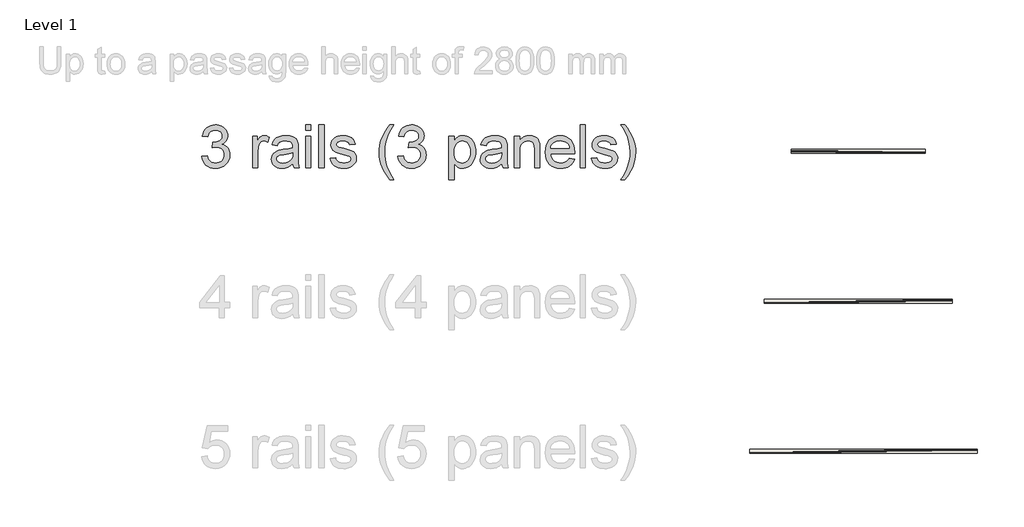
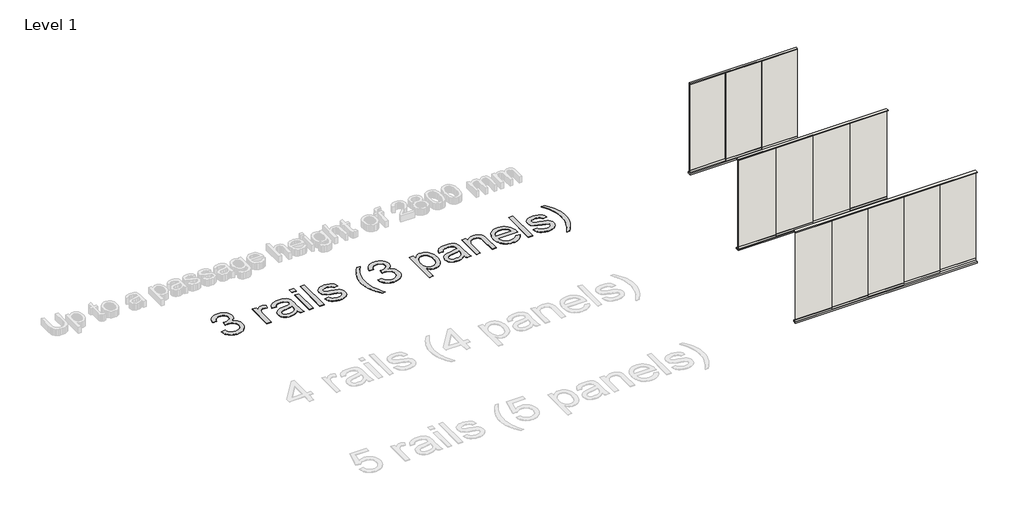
# One storey, part 5 of 47: 3 walls, 1 proxy.
"""IFC4 building model written with IfcOpenShell, lengths in millimetres."""

from ifc_helpers import new_model, si_unit, origin, origin_with_axes, place, context, project, spatial, polyline, outline, extrude, transform, mapped, element, save
from components import wall_6bacda9c, wall_d576aa66, wall_dc490932

model = new_model("IFC4")

# Units and contexts
model_context = context("Model", 3, world=origin())
ifc_project = project(units=[si_unit("LENGTHUNIT", "METRE", prefix="MILLI")], contexts=[model_context])

# Site, building, storey
site = spatial("IfcSite", under=ifc_project)
building = spatial("IfcBuilding", under=site)
storey = spatial("IfcBuildingStorey", under=building, Name="Level 1", Elevation=0.0)

# Proxy
placement = place(None, origin())
element("IfcBuildingElementProxy", 1, Name="800mm Arial", ObjectType="800mm Arial", at=placement, inside=storey, context=model_context, shape_type="SweptSolid", body=[
    extrude(outline(polyline([(176394.1506484, -49396.1423775), (176494.0742357, -49383.6519291), (176503.9604744, -49417.598138), (176516.444824, -49446.4457069), (176531.5272844, -49470.1946356), (176549.2078556, -49488.8449243), (176569.889062, -49502.9332719), (176593.9734276, -49512.9963773), (176621.4609525, -49519.0342405), (176652.3516367, -49521.0468616), (176688.5544207, -49518.2779829), (176720.8539397, -49509.9713468), (176749.2501935, -49496.1269533), (176773.7431822, -49476.7448024), (176793.4668688, -49453.2764208), (176807.5552163, -49427.1733353), (176816.0082249, -49398.4355458), (176818.8258944, -49367.0630523), (176816.0326203, -49337.1847775), (176807.652798, -49310.0021952), (176793.6864274, -49285.5153054), (176774.1335087, -49263.724108), (176750.2748006, -49245.8361758), (176723.391062, -49233.0590814), (176693.482293, -49225.3928247), (176660.5484934, -49222.8374058), (176628.9808367, -49225.5696914), (176590.4848844, -49233.7665482), (176601.60919, -49133.8429609), (176617.612577, -49135.0139404), (176648.3385922, -49133.220878), (176677.4789059, -49127.8416907), (176705.0335182, -49118.8763786), (176731.002429, -49106.3249417), (176753.0314816, -49090.0532052), (176768.7665191, -49069.9269944), (176778.2075417, -49045.9463092), (176781.3545492, -49018.1111498), (176779.0735786, -48995.514904), (176772.2306669, -48974.9556747), (176760.8258141, -48956.4334619), (176744.8590202, -48939.9482656), (176725.2939038, -48926.4149135), (176703.0940833, -48916.7482335), (176678.259559, -48910.9482255), (176650.7903306, -48909.0148895), (176623.3942885, -48910.966522), (176598.3889963, -48916.8214197), (176575.7744539, -48926.5795825), (176555.5506615, -48940.2410105), (176538.2177248, -48957.8057036), (176524.2757496, -48979.2736618), (176513.7247361, -49004.6448851), (176506.5646841, -49033.9193736), (176406.6410968, -49021.4289252), (176418.4850669, -48973.7237067), (176436.0619577, -48931.702618), (176459.3717692, -48895.3656592), (176488.4145013, -48864.7128302), (176522.2753262, -48840.3784117), (176560.0394164, -48822.9966842), (176601.7067716, -48812.5676477), (176647.277392, -48809.0913022), (176679.326858, -48810.8050795), (176710.0955652, -48815.9464115), (176739.5835134, -48824.5152983), (176767.7907028, -48836.5117397), (176793.7352182, -48851.4783219), (176816.4351445, -48868.9576311), (176835.8904816, -48888.9496672), (176852.1012296, -48911.4544302), (176864.8661264, -48935.5753889), (176873.9839097, -48960.4160121), (176879.4545798, -48985.9762999), (176881.2781365, -49012.2562521), (176879.5460626, -49036.9687995), (176874.3498409, -49060.5591581), (176865.6894713, -49083.027328), (176853.564954, -49104.3733091), (176838.0494752, -49124.0969957), (176819.2162209, -49141.6982819), (176797.0651913, -49157.1771677), (176771.5963863, -49170.5336531), (176804.896117, -49180.9504919), (176834.14621, -49195.8072948), (176859.3466655, -49215.1040618), (176880.4974834, -49238.8407928), (176897.2327327, -49266.4319982), (176909.1864821, -49297.2921881), (176916.3587318, -49331.4213626), (176918.7494817, -49368.8195216), (176913.9679819, -49419.5131775), (176899.6234826, -49466.2059866), (176875.7159836, -49508.8979489), (176842.2454852, -49547.5890645), (176801.4685623, -49579.6934202), (176755.6417901, -49602.6251028), (176704.7651687, -49616.3841124), (176648.838698, -49620.9704489), (176598.2914146, -49617.0549861), (176552.2328861, -49605.3085976), (176510.6631125, -49585.7312834), (176473.5820938, -49558.3230436), (176442.4901475, -49524.693975), (176418.8875912, -49486.4541744), (176402.7744248, -49443.6036419), (176394.1506484, -49396.1423775)])), origin_with_axes(), (0.0, 0.0, 1.0), 5.0),
    extrude(outline(polyline([(177343.4247277, -49608.4800005), (177343.4247277, -49021.4289252), (177430.8578666, -49021.4289252), (177430.8578666, -49108.2765743), (177463.1573855, -49057.9244541), (177478.3557241, -49040.5061335), (177492.9197821, -49028.2596391), (177522.7797603, -49013.7687673), (177555.3720242, -49008.9384767), (177580.1577577, -49010.8657139), (177605.1386546, -49016.6474254), (177630.3147146, -49026.2836112), (177655.685938, -49039.7742713), (177622.3130211, -49129.354206), (177587.183635, -49113.9850995), (177552.0542488, -49108.862064), (177522.218666, -49113.7899363), (177495.5544861, -49128.5735529), (177474.0133416, -49152.0907253), (177459.5468653, -49183.2192647), (177447.3979525, -49239.0359561), (177443.348315, -49299.9268921), (177443.348315, -49608.4800005), (177343.4247277, -49608.4800005)])), origin_with_axes(), (0.0, 0.0, 1.0), 5.0),
    extrude(outline(polyline([(178092.8516324, -49533.53731), (178045.1098208, -49574.4728031), (178020.7083149, -49589.6345486), (177995.9530756, -49601.25896), (177944.259208, -49616.0425767), (177888.9060294, -49620.9704489), (177844.4149058, -49618.006407), (177805.4005511, -49609.1142811), (177771.8629652, -49594.2940713), (177743.8021483, -49573.5457776), (177721.6450198, -49548.186752), (177705.8184995, -49519.5343464), (177696.3225873, -49487.5885608), (177693.1572832, -49452.3493954), (177697.938783, -49410.9259942), (177712.2832823, -49373.3082765), (177734.4099165, -49341.1063392), (177762.5378209, -49315.9302791), (177795.5935974, -49296.9018616), (177832.5038483, -49283.142852), (177918.9611709, -49268.1152813), (178021.1291356, -49252.3070575), (178092.2661426, -49233.7665482), (178092.8516324, -49211.5179369), (178091.1317562, -49187.2932977), (178085.9721276, -49166.9231328), (178077.3727466, -49150.4074423), (178065.3336132, -49137.746226), (178044.524331, -49125.1094051), (178019.1775031, -49116.0831045), (177989.2931294, -49110.6673242), (177954.8712101, -49108.862064), (177895.3464169, -49113.6679592), (177872.3171526, -49119.6753282), (177853.7766433, -49128.0856448), (177838.5417115, -49139.557585), (177825.4291803, -49154.7498247), (177814.4390494, -49173.662364), (177805.5713189, -49196.2952029), (177705.6477316, -49183.8047545), (177722.992866, -49129.1590427), (177734.8673304, -49106.2273601), (177748.8763929, -49086.2231263), (177765.6238399, -49068.7438171), (177785.7134576, -49053.3869084), (177809.145246, -49040.1524001), (177835.9192053, -49029.0402922), (177897.3224448, -49013.9639306), (177967.751985, -49008.9384767), (178035.3028671, -49013.3784408), (178088.8507856, -49026.6983331), (178129.2251843, -49046.7269623), (178157.255507, -49071.2931372), (178175.8448072, -49101.665419), (178187.8961383, -49139.1123688), (178191.5554493, -49173.6562652), (178192.7752197, -49226.5455077), (178192.7752197, -49350.864502), (178194.0437808, -49459.1557139), (178197.8494643, -49524.4622186), (178205.3632497, -49567.3737396), (178217.7561165, -49608.4800005), (178117.8325292, -49608.4800005), (178101.8291422, -49573.7409409), (178092.8516324, -49533.53731)]), holes=[polyline([(178092.8516324, -49333.6901355), (178025.7154722, -49350.3278031), (177931.6467826, -49364.3307667), (177879.8065426, -49371.9909245), (177845.6773681, -49380.529317), (177823.3067798, -49391.6048318), (177806.7422985, -49406.8763566), (177796.4962275, -49425.1729119), (177793.0808705, -49445.3235181), (177794.9410203, -49460.8511947), (177800.5214697, -49475.0371239), (177809.8222186, -49487.8813057), (177822.8432671, -49499.3837402), (177839.4626382, -49508.8613558), (177859.5583547, -49515.6310813), (177910.1788244, -49521.0468616), (177963.8487199, -49515.0699869), (177988.3417086, -49507.5988935), (178011.2733912, -49497.1393627), (178049.7205527, -49470.7191369), (178076.4579188, -49439.2734572), (178088.3140867, -49406.8763566), (178092.2661426, -49361.9888076), (178092.8516324, -49333.6901355)])]), origin_with_axes(), (0.0, 0.0, 1.0), 5.0),
    extrude(outline(polyline([(178330.1701522, -49608.4800005), (178330.1701522, -49021.4289252), (178430.0937395, -49021.4289252), (178430.0937395, -49608.4800005), (178330.1701522, -49608.4800005)])), origin_with_axes(), (0.0, 0.0, 1.0), 5.0),
    extrude(outline(polyline([(178330.1701522, -48909.0148895), (178330.1701522, -48809.0913022), (178430.0937395, -48809.0913022), (178430.0937395, -48909.0148895), (178330.1701522, -48909.0148895)])), origin_with_axes(), (0.0, 0.0, 1.0), 5.0),
    extrude(outline(polyline([(178579.9791204, -49608.4800005), (178579.9791204, -48809.0913022), (178679.9027077, -48809.0913022), (178679.9027077, -49608.4800005), (178579.9791204, -49608.4800005)])), origin_with_axes(), (0.0, 0.0, 1.0), 5.0),
    extrude(outline(polyline([(178792.3167434, -49433.6137227), (178892.2403307, -49421.1232743), (178898.278194, -49443.9085845), (178907.9997637, -49463.8640275), (178921.4050399, -49480.9896032), (178938.4940225, -49495.2853118), (178959.3155024, -49506.5559898), (178983.9182704, -49514.6064742), (179012.3023265, -49519.4367648), (179044.4676707, -49521.0468616), (179076.5964218, -49519.5709395), (179104.2852088, -49515.1431731), (179127.5340318, -49507.7635625), (179146.3428906, -49497.4321076), (179160.8581578, -49485.112427), (179171.2262058, -49471.7681394), (179177.4470346, -49457.3992446), (179179.5206442, -49442.0057428), (179177.4348369, -49428.5150827), (179171.177415, -49416.5369378), (179160.7483785, -49406.0713082), (179146.1477273, -49397.1181938), (179108.7251729, -49384.4325821), (179043.2966912, -49368.6243584), (178952.1066596, -49342.2529233), (178892.8258205, -49319.7359626), (178854.7445901, -49295.1697877), (178839.6377343, -49279.9043617), (178827.1533847, -49262.6507101), (178810.3937401, -49224.2523394), (178804.8071918, -49182.0482852), (178809.2959467, -49143.3327742), (178822.7622114, -49107.5935029), (178843.9862156, -49076.2454048), (178871.7481888, -49050.7034136), (178899.3393942, -49034.6268404), (178935.2738288, -49021.1361803), (178976.819207, -49011.9879026), (179021.2432432, -49008.9384767), (179086.2813984, -49013.8419536), (179142.829952, -49028.552384), (179188.3029907, -49051.6304391), (179205.9164746, -49065.7675775), (179220.1146015, -49081.6367898), (179241.1922332, -49120.7914181), (179254.4633347, -49171.3143061), (179154.5397474, -49183.8047545), (179149.7765441, -49167.1121972), (179141.9273219, -49152.3590748), (179130.9920807, -49139.5453873), (179116.9708205, -49128.6711346), (179099.8025528, -49120.0046662), (179079.426289, -49113.8143317), (179029.0497735, -49108.862064), (178971.6717761, -49113.594773), (178950.1550271, -49119.5106592), (178933.4197778, -49127.7928999), (178911.9030288, -49148.2850418), (178906.5238416, -49159.7020923), (178904.7307791, -49171.8997959), (178907.7070188, -49187.2689023), (178916.6357378, -49200.9791211), (178931.9072626, -49213.2256154), (178953.9119198, -49223.0325691), (179039.9789158, -49244.305364), (179128.265894, -49270.4084496), (179186.644103, -49291.3397088), (179225.3840094, -49313.8322741), (179254.7560795, -49344.6192778), (179265.557146, -49363.1475895), (179273.2721935, -49383.7983015), (179277.901222, -49406.571414), (179279.4442315, -49431.4669269), (179277.6328725, -49456.4722192), (179272.1987956, -49480.7456492), (179263.1420007, -49504.287217), (179250.4624879, -49527.0969226), (179234.3676181, -49548.266037), (179215.0647523, -49566.8858315), (179192.5538904, -49582.9563059), (179166.8350325, -49596.4774602), (179138.6095466, -49607.1931428), (179108.5788005, -49614.8472017), (179076.7427943, -49619.4396371), (179043.1015279, -49620.9704489), (178989.3218531, -49618.0186047), (178942.3484968, -49609.1630719), (178902.1814591, -49594.4038506), (178868.8207399, -49573.7409409), (178841.5710703, -49547.2719242), (178819.737181, -49515.0943823), (178803.319072, -49477.2083151), (178792.3167434, -49433.6137227)])), origin_with_axes(), (0.0, 0.0, 1.0), 5.0),
    extrude(outline(polyline([(179903.9666521, -49833.3080719), (179863.6288465, -49781.1140985), (179826.5356301, -49724.6509289), (179792.6870028, -49663.918563), (179762.0829646, -49598.9170009), (179736.723939, -49531.1709556), (179718.6103493, -49462.2051398), (179707.7421954, -49392.0195537), (179704.1194775, -49320.6141973), (179706.8273677, -49257.8570126), (179714.9510382, -49196.4415754), (179728.4904891, -49136.3678855), (179747.4457204, -49077.635943), (179776.2566961, -49010.2802241), (179811.9471767, -48943.0708777), (179854.517162, -48876.0079037), (179903.9666521, -48809.0913022), (179978.9093425, -48809.0913022), (179920.1164115, -48904.0870172), (179885.4261427, -48967.3687031), (179853.5169503, -49042.5065569), (179829.2191248, -49120.7670227), (179810.3370798, -49220.7394008), (179804.0430648, -49321.199687), (179806.7753504, -49385.2559271), (179814.9722071, -49449.2999695), (179828.6336351, -49513.3318141), (179847.7596342, -49577.3514611), (179872.3502045, -49641.3589104), (179902.405346, -49705.3541619), (179937.9250587, -49769.3372158), (179978.9093425, -49833.3080719), (179903.9666521, -49833.3080719)])), origin_with_axes(), (0.0, 0.0, 1.0), 5.0),
    extrude(outline(polyline([(180053.852033, -49396.1423775), (180153.7756203, -49383.6519291), (180163.661859, -49417.598138), (180176.1462086, -49446.4457069), (180191.228669, -49470.1946356), (180208.9092402, -49488.8449243), (180229.5904466, -49502.9332719), (180253.6748122, -49512.9963773), (180281.1623371, -49519.0342405), (180312.0530213, -49521.0468616), (180348.2558053, -49518.2779829), (180380.5553243, -49509.9713468), (180408.9515781, -49496.1269533), (180433.4445668, -49476.7448024), (180453.1682534, -49453.2764208), (180467.2566009, -49427.1733353), (180475.7096095, -49398.4355458), (180478.527279, -49367.0630523), (180475.7340049, -49337.1847775), (180467.3541826, -49310.0021952), (180453.387812, -49285.5153054), (180433.8348933, -49263.724108), (180409.9761852, -49245.8361758), (180383.0924466, -49233.0590814), (180353.1836776, -49225.3928247), (180320.249878, -49222.8374058), (180288.6822213, -49225.5696914), (180250.186269, -49233.7665482), (180261.3105746, -49133.8429609), (180277.3139616, -49135.0139404), (180308.0399768, -49133.220878), (180337.1802905, -49127.8416907), (180364.7349028, -49118.8763786), (180390.7038136, -49106.3249417), (180412.7328662, -49090.0532052), (180428.4679037, -49069.9269944), (180437.9089262, -49045.9463092), (180441.0559338, -49018.1111498), (180438.7749632, -48995.514904), (180431.9320515, -48974.9556747), (180420.5271987, -48956.4334619), (180404.5604048, -48939.9482656), (180384.9952883, -48926.4149135), (180362.7954679, -48916.7482335), (180337.9609435, -48910.9482255), (180310.4917152, -48909.0148895), (180283.0956731, -48910.966522), (180258.0903809, -48916.8214197), (180235.4758385, -48926.5795825), (180215.2520461, -48940.2410105), (180197.9191094, -48957.8057036), (180183.9771342, -48979.2736618), (180173.4261207, -49004.6448851), (180166.2660687, -49033.9193736), (180066.3424814, -49021.4289252), (180078.1864515, -48973.7237067), (180095.7633423, -48931.702618), (180119.0731538, -48895.3656592), (180148.1158859, -48864.7128302), (180181.9767108, -48840.3784117), (180219.740801, -48822.9966842), (180261.4081562, -48812.5676477), (180306.9787766, -48809.0913022), (180339.0282426, -48810.8050795), (180369.7969498, -48815.9464115), (180399.284898, -48824.5152983), (180427.4920874, -48836.5117397), (180453.4366028, -48851.4783219), (180476.1365291, -48868.9576311), (180495.5918662, -48888.9496672), (180511.8026142, -48911.4544302), (180524.567511, -48935.5753889), (180533.6852943, -48960.4160121), (180539.1559644, -48985.9762999), (180540.9795211, -49012.2562521), (180539.2474472, -49036.9687995), (180534.0512254, -49060.5591581), (180525.3908559, -49083.027328), (180513.2663386, -49104.3733091), (180497.7508598, -49124.0969957), (180478.9176055, -49141.6982819), (180456.7665759, -49157.1771677), (180431.2977709, -49170.5336531), (180464.5975016, -49180.9504919), (180493.8475946, -49195.8072948), (180519.0480501, -49215.1040618), (180540.198868, -49238.8407928), (180556.9341173, -49266.4319982), (180568.8878667, -49297.2921881), (180576.0601164, -49331.4213626), (180578.4508663, -49368.8195216), (180573.6693665, -49419.5131775), (180559.3248672, -49466.2059866), (180535.4173682, -49508.8979489), (180501.9468698, -49547.5890645), (180461.1699469, -49579.6934202), (180415.3431747, -49602.6251028), (180364.4665533, -49616.3841124), (180308.5400826, -49620.9704489), (180257.9927992, -49617.0549861), (180211.9342707, -49605.3085976), (180170.3644971, -49585.7312834), (180133.2834784, -49558.3230436), (180102.1915321, -49524.693975), (180078.5889758, -49486.4541744), (180062.4758094, -49443.6036419), (180053.852033, -49396.1423775)])), origin_with_axes(), (0.0, 0.0, 1.0), 5.0),
    extrude(outline(polyline([(181003.1261123, -49833.3080719), (181003.1261123, -49021.4289252), (181103.0496996, -49021.4289252), (181103.0496996, -49119.4008799), (181135.6419634, -49071.0735785), (181153.4018197, -49052.087853), (181172.1374923, -49036.5540775), (181192.3856802, -49024.4722522), (181214.6830823, -49015.8423769), (181239.0296985, -49010.6644518), (181265.4255289, -49008.9384767), (181300.2743679, -49011.353622), (181333.0008065, -49018.5990579), (181363.6048446, -49030.6747844), (181392.0864823, -49047.5808015), (181417.8236368, -49068.8779919), (181440.1942251, -49094.1272382), (181459.1982472, -49123.3285404), (181474.8357031, -49156.4818986), (181487.0456043, -49192.4529263), (181495.7669623, -49230.1072371), (181500.9997771, -49269.444831), (181502.7440487, -49310.4657079), (181500.7741196, -49354.322551), (181494.8643323, -49395.9228188), (181485.0146867, -49435.2665116), (181471.2251828, -49472.3536291), (181453.6848852, -49506.2144541), (181432.5828581, -49535.8792691), (181407.9191015, -49561.3480741), (181379.6936156, -49582.620869), (181349.2908395, -49599.3988102), (181318.0952128, -49611.3830539), (181286.1067353, -49618.5736002), (181253.325407, -49620.9704489), (181229.7411473, -49619.3664509), (181207.3888555, -49614.5544569), (181186.2685319, -49606.5344668), (181166.3801763, -49595.3064807), (181131.2751855, -49566.2515509), (181103.0496996, -49530.4146979), (181103.0496996, -49833.3080719), (181003.1261123, -49833.3080719)]), holes=[polyline([(181103.0496996, -49319.638381), (181105.7514909, -49367.7949145), (181113.8568649, -49409.2183157), (181127.3658216, -49443.9085845), (181146.2783609, -49471.865721), (181169.0453745, -49493.38247), (181194.1177541, -49508.7515765), (181221.4954997, -49517.9730403), (181251.1786112, -49521.0468616), (181281.2886424, -49517.863261), (181309.1664938, -49508.3124591), (181334.8121654, -49492.394456), (181358.2256574, -49470.1092517), (181377.7358841, -49441.1397058), (181391.6717604, -49405.1686781), (181400.0332862, -49362.1961686), (181402.8204615, -49312.2221772), (181400.1003736, -49264.4803656), (181391.9401099, -49223.1301507), (181378.3396705, -49188.1715324), (181359.2990553, -49159.6045107), (181336.477152, -49137.4046903), (181311.5328483, -49121.5476757), (181284.4661441, -49112.033467), (181255.2770396, -49108.862064), (181226.1794178, -49112.2347291), (181198.8016723, -49122.3527241), (181173.1438029, -49139.2160493), (181149.2058097, -49162.8247044), (181129.0125115, -49192.8615494), (181114.5887271, -49229.0094438), (181105.9344565, -49271.2683877), (181103.0496996, -49319.638381)])]), origin_with_axes(), (0.0, 0.0, 1.0), 5.0),
    extrude(outline(polyline([(181989.8715368, -49533.53731), (181942.1297252, -49574.4728031), (181917.7282193, -49589.6345486), (181892.97298, -49601.25896), (181841.2791124, -49616.0425767), (181785.9259338, -49620.9704489), (181741.4348102, -49618.006407), (181702.4204555, -49609.1142811), (181668.8828696, -49594.2940713), (181640.8220527, -49573.5457776), (181618.6649242, -49548.186752), (181602.8384039, -49519.5343464), (181593.3424917, -49487.5885608), (181590.1771876, -49452.3493954), (181594.9586874, -49410.9259942), (181609.3031868, -49373.3082765), (181631.429821, -49341.1063392), (181659.5577253, -49315.9302791), (181692.6135018, -49296.9018616), (181729.5237527, -49283.142852), (181815.9810753, -49268.1152813), (181918.1490401, -49252.3070575), (181989.286047, -49233.7665482), (181989.8715368, -49211.5179369), (181988.1516606, -49187.2932977), (181982.992032, -49166.9231328), (181974.392651, -49150.4074423), (181962.3535176, -49137.746226), (181941.5442354, -49125.1094051), (181916.1974075, -49116.0831045), (181886.3130339, -49110.6673242), (181851.8911145, -49108.862064), (181792.3663213, -49113.6679592), (181769.337057, -49119.6753282), (181750.7965477, -49128.0856448), (181735.561616, -49139.557585), (181722.4490847, -49154.7498247), (181711.4589538, -49173.662364), (181702.5912233, -49196.2952029), (181602.667636, -49183.8047545), (181620.0127705, -49129.1590427), (181631.8872348, -49106.2273601), (181645.8962973, -49086.2231263), (181662.6437443, -49068.7438171), (181682.733362, -49053.3869084), (181706.1651505, -49040.1524001), (181732.9391097, -49029.0402922), (181794.3423493, -49013.9639306), (181864.7718894, -49008.9384767), (181932.3227716, -49013.3784408), (181985.87069, -49026.6983331), (182026.2450887, -49046.7269623), (182054.2754114, -49071.2931372), (182072.8647116, -49101.665419), (182084.9160427, -49139.1123688), (182088.5753537, -49173.6562652), (182089.7951241, -49226.5455077), (182089.7951241, -49350.864502), (182091.0636853, -49459.1557139), (182094.8693688, -49524.4622186), (182102.3831541, -49567.3737396), (182114.7760209, -49608.4800005), (182014.8524336, -49608.4800005), (181998.8490466, -49573.7409409), (181989.8715368, -49533.53731)]), holes=[polyline([(181989.8715368, -49333.6901355), (181922.7353766, -49350.3278031), (181828.666687, -49364.3307667), (181776.826447, -49371.9909245), (181742.6972725, -49380.529317), (181720.3266843, -49391.6048318), (181703.7622029, -49406.8763566), (181693.5161319, -49425.1729119), (181690.1007749, -49445.3235181), (181691.9609247, -49460.8511947), (181697.5413741, -49475.0371239), (181706.842123, -49487.8813057), (181719.8631715, -49499.3837402), (181736.4825426, -49508.8613558), (181756.5782591, -49515.6310813), (181807.1987288, -49521.0468616), (181860.8686243, -49515.0699869), (181885.361613, -49507.5988935), (181908.2932956, -49497.1393627), (181946.7404571, -49470.7191369), (181973.4778233, -49439.2734572), (181985.3339911, -49406.8763566), (181989.286047, -49361.9888076), (181989.8715368, -49333.6901355)])]), origin_with_axes(), (0.0, 0.0, 1.0), 5.0),
    extrude(outline(polyline([(182227.1900566, -49608.4800005), (182227.1900566, -49021.4289252), (182327.1136439, -49021.4289252), (182327.1136439, -49103.3974929), (182343.5988402, -49081.258661), (182361.8283081, -49062.0716733), (182381.8020477, -49045.8365299), (182403.5200588, -49032.5532308), (182426.9823415, -49022.2217759), (182452.1888959, -49014.8421653), (182507.8348194, -49008.9384767), (182557.0891462, -49013.6955811), (182602.1962538, -49027.9668943), (182639.8139715, -49049.9715514), (182666.6001285, -49077.9286879), (182684.7747067, -49111.7651175), (182696.5576883, -49151.4076539), (182700.5097443, -49189.3181165), (182701.8270963, -49248.0134659), (182701.8270963, -49608.4800005), (182601.903509, -49608.4800005), (182601.903509, -49261.4797306), (182599.0248509, -49209.8102584), (182590.3888768, -49173.0707754), (182574.458676, -49146.7481312), (182549.6973379, -49126.3291755), (182517.9589133, -49113.2288419), (182481.0974532, -49108.862064), (182450.7556657, -49111.3138025), (182422.5728717, -49118.6690177), (182396.5490712, -49130.9277097), (182372.6842643, -49148.0898786), (182352.7471179, -49172.1071568), (182338.506299, -49204.931177), (182329.9618077, -49246.5619392), (182327.1136439, -49296.9994432), (182327.1136439, -49608.4800005), (182227.1900566, -49608.4800005)])), origin_with_axes(), (0.0, 0.0, 1.0), 5.0),
    extrude(outline(polyline([(183250.2358468, -49433.6137227), (183348.2078016, -49446.1041712), (183333.1863297, -49485.3441834), (183312.9076476, -49519.9246729), (183287.3717552, -49549.8456397), (183256.5786527, -49575.1070837), (183220.8454802, -49595.172306), (183180.4893781, -49609.5046076), (183135.5103463, -49618.1039886), (183085.9083849, -49620.9704489), (183023.9074579, -49616.0242801), (182968.6640586, -49601.1857738), (182920.1781871, -49576.4549299), (182878.4498433, -49541.8317484), (182844.8939609, -49498.279848), (182820.9254735, -49446.7628471), (182806.544381, -49387.2807459), (182801.7506835, -49319.8335442), (182806.5931719, -49250.0992732), (182821.1206368, -49188.6350451), (182845.3330783, -49135.44086), (182861.0711652, -49111.9450336), (182879.2304964, -49090.5167179), (182920.8490608, -49054.8262374), (182968.2249413, -49029.333037), (183021.3581378, -49014.0371168), (183080.2486505, -49008.9384767), (183137.2424202, -49014.0249191), (183188.7838165, -49029.2842462), (183234.8728392, -49054.7164581), (183275.5094885, -49090.3215547), (183308.6811433, -49135.1481151), (183332.3751824, -49188.2447186), (183346.5916058, -49249.611365), (183351.3304137, -49319.2480545), (183350.7449239, -49346.1805839), (182901.6742708, -49346.1805839), (182907.4620812, -49386.0548767), (182918.9706144, -49420.9769019), (182936.1998707, -49450.9466595), (182959.1498499, -49475.9641494), (182986.5519908, -49495.687836), (183017.1377324, -49509.7761836), (183050.9070746, -49518.2291921), (183087.8600175, -49521.0468616), (183141.0420049, -49515.8262445), (183185.8319722, -49500.1643932), (183205.0799484, -49488.1740506), (183222.2299195, -49473.0854914), (183237.2818857, -49454.8987154), (183250.2358468, -49433.6137227)]), holes=[polyline([(182901.6742708, -49246.2569966), (183251.4068264, -49246.2569966), (183246.2715932, -49217.9827198), (183237.8917709, -49193.4653357), (183226.2673594, -49172.7048443), (183211.3983588, -49155.7012456), (183184.1486891, -49135.2091037), (183153.1421268, -49120.5718594), (183118.3786717, -49111.7895129), (183079.858324, -49108.862064), (183044.722839, -49111.1979243), (183012.5026051, -49118.2055049), (182983.1976224, -49129.8848061), (182956.8078908, -49146.2358276), (182934.66296, -49166.5023121), (182918.0923798, -49189.9280017), (182907.0961501, -49216.5128965), (182901.6742708, -49246.2569966)])]), origin_with_axes(), (0.0, 0.0, 1.0), 5.0),
    extrude(outline(polyline([(183451.254001, -49608.4800005), (183451.254001, -48809.0913022), (183551.1775882, -48809.0913022), (183551.1775882, -49608.4800005), (183451.254001, -49608.4800005)])), origin_with_axes(), (0.0, 0.0, 1.0), 5.0),
    extrude(outline(polyline([(183663.591624, -49433.6137227), (183763.5152112, -49421.1232743), (183769.5530745, -49443.9085845), (183779.2746442, -49463.8640275), (183792.6799204, -49480.9896032), (183809.768903, -49495.2853118), (183830.5903829, -49506.5559898), (183855.193151, -49514.6064742), (183883.5772071, -49519.4367648), (183915.7425513, -49521.0468616), (183947.8713023, -49519.5709395), (183975.5600894, -49515.1431731), (183998.8089123, -49507.7635625), (184017.6177711, -49497.4321076), (184032.1330383, -49485.112427), (184042.5010863, -49471.7681394), (184048.7219151, -49457.3992446), (184050.7955247, -49442.0057428), (184048.7097174, -49428.5150827), (184042.4522955, -49416.5369378), (184032.023259, -49406.0713082), (184017.4226079, -49397.1181938), (183980.0000534, -49384.4325821), (183914.5715717, -49368.6243584), (183823.3815402, -49342.2529233), (183764.100701, -49319.7359626), (183726.0194706, -49295.1697877), (183710.9126148, -49279.9043617), (183698.4282652, -49262.6507101), (183681.6686206, -49224.2523394), (183676.0820724, -49182.0482852), (183680.5708273, -49143.3327742), (183694.037092, -49107.5935029), (183715.2610961, -49076.2454048), (183743.0230693, -49050.7034136), (183770.6142747, -49034.6268404), (183806.5487093, -49021.1361803), (183848.0940875, -49011.9879026), (183892.5181237, -49008.9384767), (183957.5562789, -49013.8419536), (184014.1048325, -49028.552384), (184059.5778712, -49051.6304391), (184077.1913551, -49065.7675775), (184091.389482, -49081.6367898), (184112.4671137, -49120.7914181), (184125.7382152, -49171.3143061), (184025.8146279, -49183.8047545), (184021.0514247, -49167.1121972), (184013.2022024, -49152.3590748), (184002.2669612, -49139.5453873), (183988.245701, -49128.6711346), (183971.0774333, -49120.0046662), (183950.7011696, -49113.8143317), (183900.324654, -49108.862064), (183842.9466566, -49113.594773), (183821.4299076, -49119.5106592), (183804.6946583, -49127.7928999), (183783.1779093, -49148.2850418), (183777.7987221, -49159.7020923), (183776.0056597, -49171.8997959), (183778.9818993, -49187.2689023), (183787.9106183, -49200.9791211), (183803.1821431, -49213.2256154), (183825.1868003, -49223.0325691), (183911.2537964, -49244.305364), (183999.5407745, -49270.4084496), (184057.9189836, -49291.3397088), (184096.65889, -49313.8322741), (184126.0309601, -49344.6192778), (184136.8320265, -49363.1475895), (184144.547074, -49383.7983015), (184149.1761025, -49406.571414), (184150.719112, -49431.4669269), (184148.907753, -49456.4722192), (184143.4736761, -49480.7456492), (184134.4168812, -49504.287217), (184121.7373684, -49527.0969226), (184105.6424986, -49548.266037), (184086.3396328, -49566.8858315), (184063.8287709, -49582.9563059), (184038.109913, -49596.4774602), (184009.8844271, -49607.1931428), (183979.853681, -49614.8472017), (183948.0176748, -49619.4396371), (183914.3764085, -49620.9704489), (183860.5967336, -49618.0186047), (183813.6233773, -49609.1630719), (183773.4563396, -49594.4038506), (183740.0956205, -49573.7409409), (183712.8459508, -49547.2719242), (183691.0120615, -49515.0943823), (183674.5939525, -49477.2083151), (183663.591624, -49433.6137227)])), origin_with_axes(), (0.0, 0.0, 1.0), 5.0),
    extrude(outline(polyline([(184288.1140445, -49833.3080719), (184213.1713541, -49833.3080719), (184254.1556379, -49769.3372158), (184289.6753506, -49705.3541619), (184319.7304921, -49641.3589104), (184344.3210624, -49577.3514611), (184363.4470615, -49513.3318141), (184377.1084895, -49449.2999695), (184385.3053462, -49385.2559271), (184388.0376318, -49321.199687), (184381.7436168, -49221.471263), (184362.8615717, -49122.523492), (184339.0028636, -49044.1166537), (184307.2400437, -48968.9300092), (184272.4034024, -48904.9652519), (184213.1713541, -48809.0913022), (184288.1140445, -48809.0913022), (184337.5635346, -48876.0079037), (184380.1335199, -48943.0708777), (184415.8240005, -49010.2802241), (184444.6349762, -49077.635943), (184463.5902075, -49136.3678855), (184477.1296584, -49196.4415754), (184485.2533289, -49257.8570126), (184487.9612191, -49320.6141973), (184484.3202046, -49392.0195537), (184473.3971611, -49462.2051398), (184455.1920886, -49531.1709556), (184429.7049871, -49598.9170009), (184399.0094661, -49663.918563), (184365.1791354, -49724.6509289), (184328.2139949, -49781.1140985), (184288.1140445, -49833.3080719)])), origin_with_axes(), (0.0, 0.0, 1.0), 5.0),
])

# Walls
wall_shape = wall_6bacda9c(model_context)
element("IfcWall", 2, ObjectType="Renson_Algarve_Glass_Sliding_Panel : Renson_Algarve_Glass_Sliding_Panel", at=placement, inside=storey, context=model_context, shape_type="MappedRepresentation", body=[
    mapped(wall_shape, transform((189139.1029194, -49339.5742521, 0.0), x_axis=(1.0, 0.0, 0.0), y_axis=(0.0, 1.0, 0.0), z_axis=(0.0, 0.0, 1.0))),
])
wall_2_shape = wall_d576aa66(model_context)
element("IfcWall", 3, ObjectType="Renson_Algarve_Glass_Sliding_Panel : Renson_Algarve_Glass_Sliding_Panel", at=placement, inside=storey, context=model_context, shape_type="MappedRepresentation", body=[
    mapped(wall_2_shape, transform((187639.1029194, -52139.5742521, 0.0), x_axis=(-1.0, 0.0, 0.0), y_axis=(0.0, -1.0, 0.0), z_axis=(0.0, 0.0, 1.0))),
])
wall_3_shape = wall_dc490932(model_context)
element("IfcWall", 4, ObjectType="Renson_Algarve_Glass_Sliding_Panel : Renson_Algarve_Glass_Sliding_Panel", at=placement, inside=storey, context=model_context, shape_type="MappedRepresentation", body=[
    mapped(wall_3_shape, transform((187362.4238385, -54937.5225957, 0.0), x_axis=(-1.0, 0.0, 0.0), y_axis=(0.0, -1.0, 0.0), z_axis=(0.0, 0.0, 1.0))),
])

save(model, "model.ifc")
